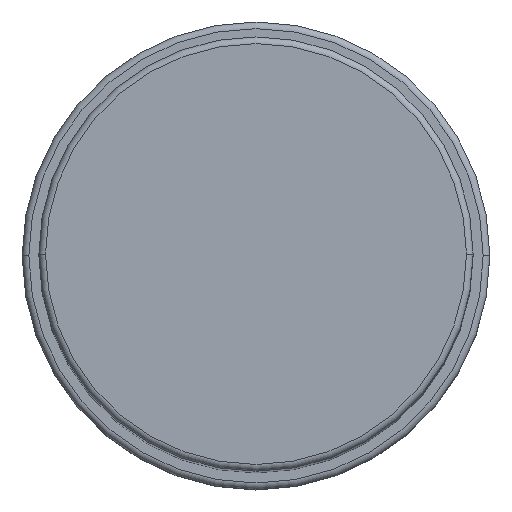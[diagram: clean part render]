
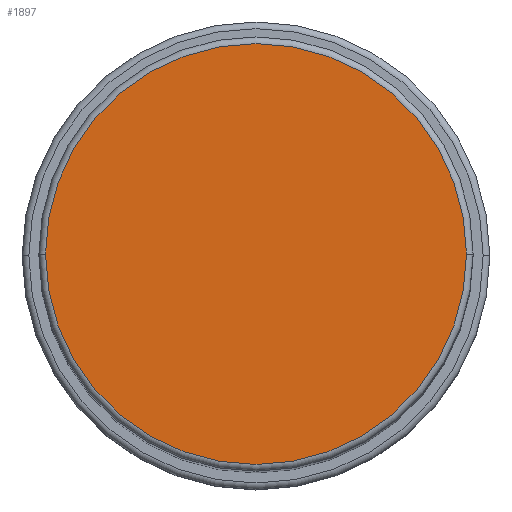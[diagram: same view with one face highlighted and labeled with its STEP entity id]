
A CAD part, top view. The second image highlights one B-rep face of the part: STEP entity #1897.
In plain terms, the highlighted planar face has unit normal (0, 0, 1).
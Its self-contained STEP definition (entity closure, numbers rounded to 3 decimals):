
#522 = DIRECTION ( 'NONE',  ( 1., 0., 0. ) ) ;
#604 = DIRECTION ( 'NONE',  ( 0., 0., 1. ) ) ;
#789 = CARTESIAN_POINT ( 'NONE',  ( 0., 0., 168. ) ) ;
#1402 = ORIENTED_EDGE ( 'NONE', *, *, #2765, .T. ) ;
#1591 = CIRCLE ( 'NONE', #2903, 31.5 ) ;
#1723 = CARTESIAN_POINT ( 'NONE',  ( -31.5, 0., 168. ) ) ;
#1740 = CARTESIAN_POINT ( 'NONE',  ( 0., 0., 168. ) ) ;
#1779 = VERTEX_POINT ( 'NONE', #1723 ) ;
#1814 = EDGE_CURVE ( 'NONE', #3326, #1779, #5352, .T. ) ;
#1897 = ADVANCED_FACE ( 'NONE', ( #4501 ), #4370, .T. ) ;
#1969 = DIRECTION ( 'NONE',  ( 0., 0., 1. ) ) ;
#2162 = DIRECTION ( 'NONE',  ( 1., 0., 0. ) ) ;
#2387 = EDGE_LOOP ( 'NONE', ( #3024, #1402 ) ) ;
#2408 = DIRECTION ( 'NONE',  ( 1., 0., 0. ) ) ;
#2765 = EDGE_CURVE ( 'NONE', #1779, #3326, #1591, .T. ) ;
#2903 = AXIS2_PLACEMENT_3D ( 'NONE', #789, #1969, #2408 ) ;
#3024 = ORIENTED_EDGE ( 'NONE', *, *, #1814, .T. ) ;
#3326 = VERTEX_POINT ( 'NONE', #3992 ) ;
#3537 = CARTESIAN_POINT ( 'NONE',  ( 0., 0., 168. ) ) ;
#3992 = CARTESIAN_POINT ( 'NONE',  ( 31.5, 0., 168. ) ) ;
#4232 = DIRECTION ( 'NONE',  ( 0., 0., 1. ) ) ;
#4261 = AXIS2_PLACEMENT_3D ( 'NONE', #1740, #4232, #2162 ) ;
#4370 = PLANE ( 'NONE',  #4550 ) ;
#4501 = FACE_OUTER_BOUND ( 'NONE', #2387, .T. ) ;
#4550 = AXIS2_PLACEMENT_3D ( 'NONE', #3537, #604, #522 ) ;
#5352 = CIRCLE ( 'NONE', #4261, 31.5 ) ;
